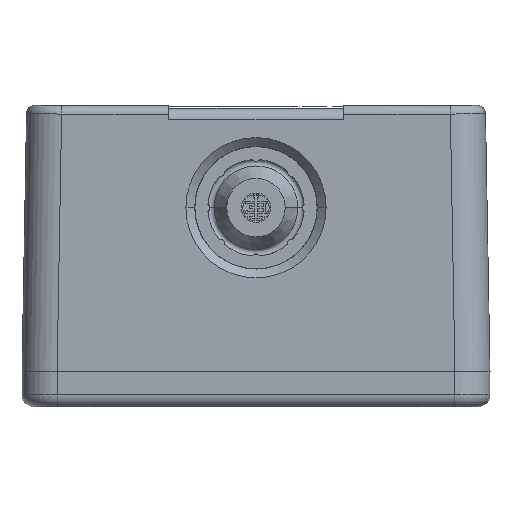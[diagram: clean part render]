
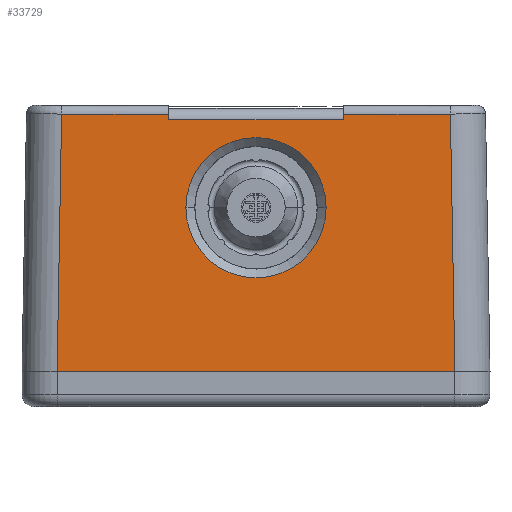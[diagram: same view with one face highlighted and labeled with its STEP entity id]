
A CAD part, front view. The second image highlights one B-rep face of the part: STEP entity #33729.
In plain terms, the highlighted planar face has unit normal (0, -1, 0).
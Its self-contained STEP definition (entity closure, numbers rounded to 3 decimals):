
#13218=CARTESIAN_POINT('',(33.999,-65.,6.));
#13234=CARTESIAN_POINT('',(33.231,-65.,
50.02));
#13296=CARTESIAN_POINT('',(14.974,-65.,50.02));
#13419=CARTESIAN_POINT('',(-14.956,-65.,49.));
#13442=DIRECTION('',(-1.,0.,0.));
#13443=VECTOR('',#13442,29.913);
#13444=CARTESIAN_POINT('',(14.956,-65.,49.));
#13445=LINE('',#13444,#13443);
#17255=DIRECTION('',(-1.,0.,0.));
#17256=VECTOR('',#17255,18.257);
#17257=CARTESIAN_POINT('',(-14.974,-65.,50.02));
#17258=LINE('',#17257,#17256);
#17263=DIRECTION('',(0.017,0.,-1.));
#17264=VECTOR('',#17263,1.02);
#17265=CARTESIAN_POINT('',(-14.974,-65.,50.02));
#17266=LINE('',#17265,#17264);
#17267=DIRECTION('',(0.017,0.,1.));
#17268=VECTOR('',#17267,1.02);
#17269=CARTESIAN_POINT('',(14.956,-65.,49.));
#17270=LINE('',#17269,#17268);
#17271=DIRECTION('',(0.017,0.,-1.));
#17272=VECTOR('',#17271,44.027);
#17273=CARTESIAN_POINT('',(33.231,-65.,
50.02));
#17274=LINE('',#17273,#17272);
#17275=DIRECTION('',(-1.,0.,0.));
#17276=VECTOR('',#17275,67.998);
#17277=CARTESIAN_POINT('',(33.999,-65.,6.));
#17278=LINE('',#17277,#17276);
#17279=DIRECTION('',(0.017,0.,1.));
#17280=VECTOR('',#17279,44.027);
#17281=CARTESIAN_POINT('',(-33.999,-65.,6.));
#17282=LINE('',#17281,#17280);
#17283=CARTESIAN_POINT('',(0.,-65.,34.));
#17284=DIRECTION('',(0.,-1.,0.));
#17285=DIRECTION('',(-1.,0.,0.));
#17286=AXIS2_PLACEMENT_3D('',#17283,#17284,#17285);
#17288=CARTESIAN_POINT('',(0.,-65.,34.));
#17289=DIRECTION('',(0.,-1.,0.));
#17290=DIRECTION('',(1.,0.,0.));
#17291=AXIS2_PLACEMENT_3D('',#17288,#17289,#17290);
#17297=DIRECTION('',(-1.,0.,0.));
#17298=VECTOR('',#17297,18.257);
#17299=CARTESIAN_POINT('',(33.231,-65.,
50.02));
#17300=LINE('',#17299,#17298);
#17301=CARTESIAN_POINT('',(-33.999,-65.,6.));
#26059=VERTEX_POINT('',#13218);
#26069=VERTEX_POINT('',#17301);
#26133=VERTEX_POINT('',#13234);
#26154=VERTEX_POINT('',#13296);
#26155=CARTESIAN_POINT('',(14.956,-65.,49.));
#26156=VERTEX_POINT('',#26155);
#26176=VERTEX_POINT('',#13419);
#26177=CARTESIAN_POINT('',(-14.974,-65.,50.02));
#26178=VERTEX_POINT('',#26177);
#27979=CARTESIAN_POINT('',(-33.231,-65.,50.02));
#27980=VERTEX_POINT('',#27979);
#27981=CARTESIAN_POINT('',(-11.985,-65.,34.));
#27982=CARTESIAN_POINT('',(11.985,-65.,34.));
#27983=VERTEX_POINT('',#27981);
#27984=VERTEX_POINT('',#27982);
#33705=CARTESIAN_POINT('',(40.,-65.,51.5));
#33706=DIRECTION('',(0.,-1.,0.));
#33707=DIRECTION('',(-1.,0.,0.));
#33708=AXIS2_PLACEMENT_3D('',#33705,#33706,#33707);
#33709=PLANE('',#33708);
#33710=ORIENTED_EDGE('',*,*,#33697,.F.);
#33711=ORIENTED_EDGE('',*,*,#31432,.T.);
#33712=ORIENTED_EDGE('',*,*,#31456,.F.);
#33713=ORIENTED_EDGE('',*,*,#31312,.T.);
#33715=ORIENTED_EDGE('',*,*,#33714,.F.);
#33716=ORIENTED_EDGE('',*,*,#31211,.T.);
#33718=ORIENTED_EDGE('',*,*,#33717,.T.);
#33720=ORIENTED_EDGE('',*,*,#33719,.T.);
#33721=EDGE_LOOP('',(#33710,#33711,#33712,#33713,#33715,#33716,#33718,#33720));
#33722=FACE_OUTER_BOUND('',#33721,.F.);
#33724=ORIENTED_EDGE('',*,*,#33723,.T.);
#33726=ORIENTED_EDGE('',*,*,#33725,.T.);
#33727=EDGE_LOOP('',(#33724,#33726));
#33728=FACE_BOUND('',#33727,.F.);
#33729=ADVANCED_FACE('',(#33722,#33728),#33709,.T.);
#17287=CIRCLE('',#17286,11.985);
#17292=CIRCLE('',#17291,11.985);
#31211=EDGE_CURVE('',#26133,#26059,#17274,.T.);
#31312=EDGE_CURVE('',#26156,#26154,#17270,.T.);
#31432=EDGE_CURVE('',#26178,#26176,#17266,.T.);
#31456=EDGE_CURVE('',#26156,#26176,#13445,.T.);
#33697=EDGE_CURVE('',#26178,#27980,#17258,.T.);
#33714=EDGE_CURVE('',#26133,#26154,#17300,.T.);
#33717=EDGE_CURVE('',#26059,#26069,#17278,.T.);
#33719=EDGE_CURVE('',#26069,#27980,#17282,.T.);
#33723=EDGE_CURVE('',#27983,#27984,#17287,.T.);
#33725=EDGE_CURVE('',#27984,#27983,#17292,.T.);
